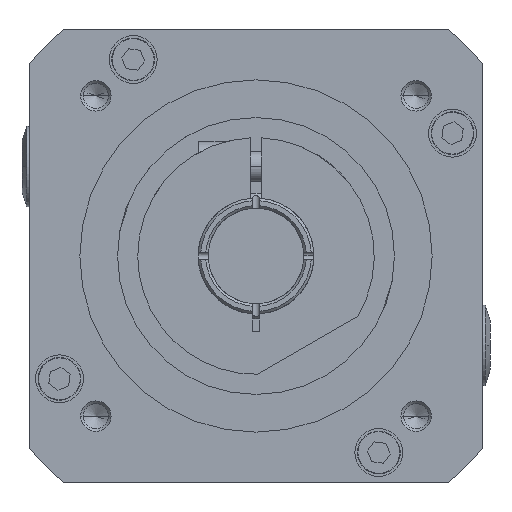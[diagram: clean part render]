
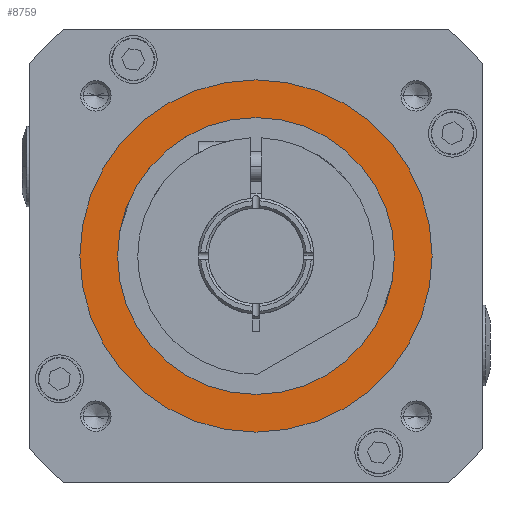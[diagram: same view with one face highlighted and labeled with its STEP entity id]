
A CAD part, left-side view. The second image highlights one B-rep face of the part: STEP entity #8759.
In plain terms, the highlighted planar face has unit normal (-1, 0, 0).
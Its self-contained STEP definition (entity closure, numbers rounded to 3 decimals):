
#110 = AXIS2_PLACEMENT_3D ( 'NONE', #11896, #8828, #2538 ) ;
#644 = CARTESIAN_POINT ( 'NONE',  ( -48., -27.5, 0. ) ) ;
#1453 = CARTESIAN_POINT ( 'NONE',  ( -48., 35., 0. ) ) ;
#1860 = ORIENTED_EDGE ( 'NONE', *, *, #12746, .F. ) ;
#2052 = DIRECTION ( 'NONE',  ( -1., 0., 0. ) ) ;
#2256 = CIRCLE ( 'NONE', #12127, 35. ) ;
#2538 = DIRECTION ( 'NONE',  ( 0., -1., 0. ) ) ;
#2650 = ORIENTED_EDGE ( 'NONE', *, *, #6263, .T. ) ;
#2848 = CARTESIAN_POINT ( 'NONE',  ( -48., 27.5, 0. ) ) ;
#3189 = AXIS2_PLACEMENT_3D ( 'NONE', #4594, #11900, #5636 ) ;
#3222 = VERTEX_POINT ( 'NONE', #2848 ) ;
#3580 = AXIS2_PLACEMENT_3D ( 'NONE', #8337, #2052, #9386 ) ;
#4125 = DIRECTION ( 'NONE',  ( -1., 0., 0. ) ) ;
#4484 = EDGE_CURVE ( 'NONE', #3222, #4955, #6872, .T. ) ;
#4594 = CARTESIAN_POINT ( 'NONE',  ( -48., 0., 0. ) ) ;
#4736 = CARTESIAN_POINT ( 'NONE',  ( -48., 0., 0. ) ) ;
#4955 = VERTEX_POINT ( 'NONE', #644 ) ;
#5636 = DIRECTION ( 'NONE',  ( 0., -1., 0. ) ) ;
#5800 = DIRECTION ( 'NONE',  ( 0., -1., 0. ) ) ;
#5848 = CIRCLE ( 'NONE', #3189, 27.5 ) ;
#6263 = EDGE_CURVE ( 'NONE', #7396, #6911, #2256, .T. ) ;
#6353 = ORIENTED_EDGE ( 'NONE', *, *, #9587, .T. ) ;
#6551 = CARTESIAN_POINT ( 'NONE',  ( -48., -35., 0. ) ) ;
#6872 = CIRCLE ( 'NONE', #13244, 27.5 ) ;
#6911 = VERTEX_POINT ( 'NONE', #1453 ) ;
#7396 = VERTEX_POINT ( 'NONE', #6551 ) ;
#7628 = EDGE_LOOP ( 'NONE', ( #2650, #6353 ) ) ;
#7765 = PLANE ( 'NONE',  #110 ) ;
#8337 = CARTESIAN_POINT ( 'NONE',  ( -48., 0., 0. ) ) ;
#8759 = ADVANCED_FACE ( 'NONE', ( #11769, #11452 ), #7765, .T. ) ;
#8828 = DIRECTION ( 'NONE',  ( -1., 0., 0. ) ) ;
#9386 = DIRECTION ( 'NONE',  ( 0., -1., 0. ) ) ;
#9587 = EDGE_CURVE ( 'NONE', #6911, #7396, #12101, .T. ) ;
#9860 = EDGE_LOOP ( 'NONE', ( #1860, #10077 ) ) ;
#10077 = ORIENTED_EDGE ( 'NONE', *, *, #4484, .F. ) ;
#10411 = CARTESIAN_POINT ( 'NONE',  ( -48., 0., 0. ) ) ;
#11439 = DIRECTION ( 'NONE',  ( 0., -1., 0. ) ) ;
#11452 = FACE_BOUND ( 'NONE', #9860, .T. ) ;
#11769 = FACE_OUTER_BOUND ( 'NONE', #7628, .T. ) ;
#11896 = CARTESIAN_POINT ( 'NONE',  ( -48., 0., 35. ) ) ;
#11900 = DIRECTION ( 'NONE',  ( -1., 0., 0. ) ) ;
#12058 = DIRECTION ( 'NONE',  ( -1., 0., 0. ) ) ;
#12101 = CIRCLE ( 'NONE', #3580, 35. ) ;
#12127 = AXIS2_PLACEMENT_3D ( 'NONE', #10411, #4125, #11439 ) ;
#12746 = EDGE_CURVE ( 'NONE', #4955, #3222, #5848, .T. ) ;
#13244 = AXIS2_PLACEMENT_3D ( 'NONE', #4736, #12058, #5800 ) ;
